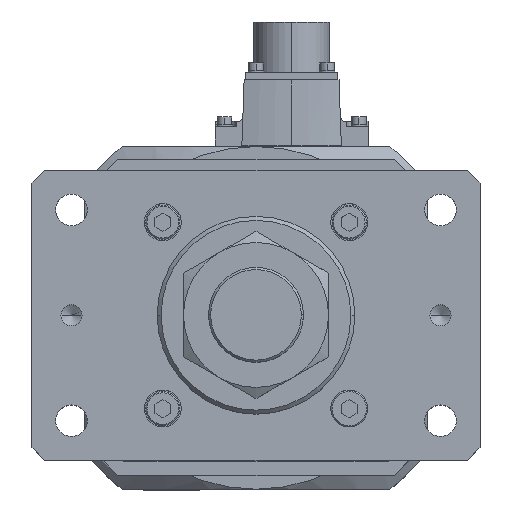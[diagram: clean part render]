
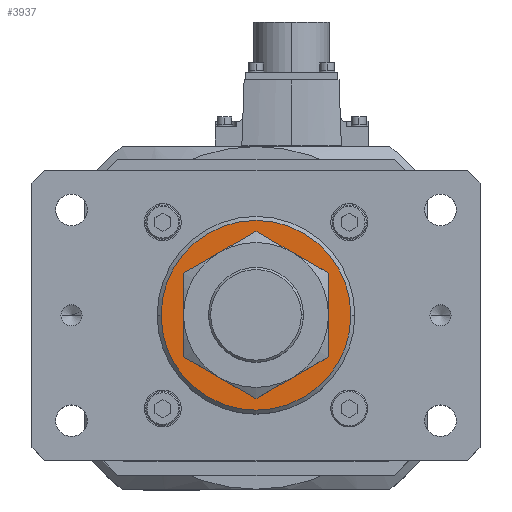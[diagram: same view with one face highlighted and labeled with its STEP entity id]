
A CAD part, top view. The second image highlights one B-rep face of the part: STEP entity #3937.
In plain terms, the highlighted planar face has unit normal (0, 0, 1).
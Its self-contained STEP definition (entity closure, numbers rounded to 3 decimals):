
#2247 = CARTESIAN_POINT ( 'NONE',  ( 0., 0., 296. ) ) ;
#2460 = DIRECTION ( 'NONE',  ( 1., 0., 0. ) ) ;
#2705 = VERTEX_POINT ( 'NONE', #36365 ) ;
#3937 = ADVANCED_FACE ( 'NONE', ( #12232, #34542 ), #16551, .T. ) ;
#4340 = AXIS2_PLACEMENT_3D ( 'NONE', #22229, #22336, #16087 ) ;
#4488 = CARTESIAN_POINT ( 'NONE',  ( 0., 0., 296. ) ) ;
#4687 = CARTESIAN_POINT ( 'NONE',  ( 0., 0., 296. ) ) ;
#5113 = AXIS2_PLACEMENT_3D ( 'NONE', #4687, #30018, #32738 ) ;
#6231 = EDGE_CURVE ( 'NONE', #2705, #13682, #20588, .T. ) ;
#8044 = VERTEX_POINT ( 'NONE', #35435 ) ;
#9449 = EDGE_LOOP ( 'NONE', ( #15500, #19621 ) ) ;
#10386 = AXIS2_PLACEMENT_3D ( 'NONE', #2247, #13468, #25095 ) ;
#12232 = FACE_BOUND ( 'NONE', #9449, .T. ) ;
#13468 = DIRECTION ( 'NONE',  ( 0., 0., 1. ) ) ;
#13561 = CARTESIAN_POINT ( 'NONE',  ( 0., 0., 296. ) ) ;
#13682 = VERTEX_POINT ( 'NONE', #26788 ) ;
#14549 = ORIENTED_EDGE ( 'NONE', *, *, #6231, .T. ) ;
#15403 = EDGE_LOOP ( 'NONE', ( #14549, #28419 ) ) ;
#15500 = ORIENTED_EDGE ( 'NONE', *, *, #33658, .T. ) ;
#16087 = DIRECTION ( 'NONE',  ( 1., 0., 0. ) ) ;
#16551 = PLANE ( 'NONE',  #30382 ) ;
#19621 = ORIENTED_EDGE ( 'NONE', *, *, #36916, .T. ) ;
#20588 = CIRCLE ( 'NONE', #10386, 36. ) ;
#21082 = VERTEX_POINT ( 'NONE', #36718 ) ;
#21861 = DIRECTION ( 'NONE',  ( 1., 0., 0. ) ) ;
#22229 = CARTESIAN_POINT ( 'NONE',  ( 0., 0., 296. ) ) ;
#22336 = DIRECTION ( 'NONE',  ( 0., 0., -1. ) ) ;
#24046 = CIRCLE ( 'NONE', #26965, 23. ) ;
#25095 = DIRECTION ( 'NONE',  ( 1., 0., 0. ) ) ;
#26788 = CARTESIAN_POINT ( 'NONE',  ( 36., 0., 296. ) ) ;
#26965 = AXIS2_PLACEMENT_3D ( 'NONE', #4488, #33038, #21861 ) ;
#27916 = EDGE_CURVE ( 'NONE', #13682, #2705, #36569, .T. ) ;
#28058 = DIRECTION ( 'NONE',  ( 0., 0., 1. ) ) ;
#28419 = ORIENTED_EDGE ( 'NONE', *, *, #27916, .T. ) ;
#30018 = DIRECTION ( 'NONE',  ( 0., 0., 1. ) ) ;
#30382 = AXIS2_PLACEMENT_3D ( 'NONE', #13561, #28058, #2460 ) ;
#32738 = DIRECTION ( 'NONE',  ( 1., 0., 0. ) ) ;
#33038 = DIRECTION ( 'NONE',  ( 0., 0., -1. ) ) ;
#33658 = EDGE_CURVE ( 'NONE', #21082, #8044, #34070, .T. ) ;
#34070 = CIRCLE ( 'NONE', #4340, 23. ) ;
#34542 = FACE_OUTER_BOUND ( 'NONE', #15403, .T. ) ;
#35435 = CARTESIAN_POINT ( 'NONE',  ( -23., 0., 296. ) ) ;
#36365 = CARTESIAN_POINT ( 'NONE',  ( -36., 0., 296. ) ) ;
#36569 = CIRCLE ( 'NONE', #5113, 36. ) ;
#36718 = CARTESIAN_POINT ( 'NONE',  ( 23., 0., 296. ) ) ;
#36916 = EDGE_CURVE ( 'NONE', #8044, #21082, #24046, .T. ) ;
